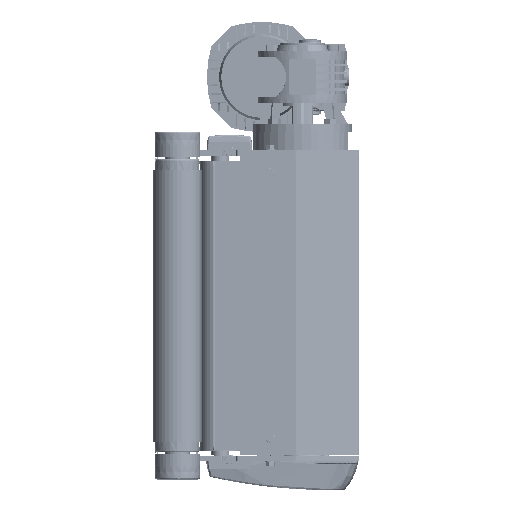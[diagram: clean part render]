
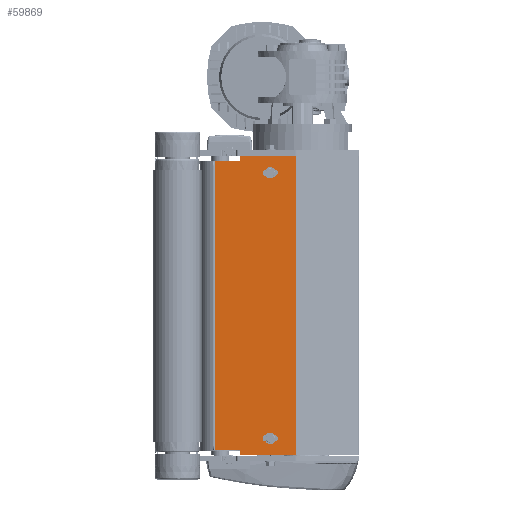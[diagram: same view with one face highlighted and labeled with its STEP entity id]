
A CAD part, left-side view. The second image highlights one B-rep face of the part: STEP entity #59869.
In plain terms, the highlighted planar face has unit normal (-1, 0, 0).
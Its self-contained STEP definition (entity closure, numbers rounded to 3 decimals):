
#2682 = LINE ( 'NONE', #59168, #98269 ) ;
#3609 = CARTESIAN_POINT ( 'NONE',  ( -90., 93., 192. ) ) ;
#4455 = VECTOR ( 'NONE', #115401, 1000. ) ;
#5945 = DIRECTION ( 'NONE',  ( 0., 0., -1. ) ) ;
#6723 = CARTESIAN_POINT ( 'NONE',  ( -90., 160., -115.5 ) ) ;
#6884 = CARTESIAN_POINT ( 'NONE',  ( -90., 160., -110.5 ) ) ;
#7875 = CARTESIAN_POINT ( 'NONE',  ( -90., 160., 199. ) ) ;
#8242 = EDGE_CURVE ( 'NONE', #170442, #152160, #160098, .T. ) ;
#8767 = VERTEX_POINT ( 'NONE', #100993 ) ;
#10577 = VERTEX_POINT ( 'NONE', #176721 ) ;
#11625 = VECTOR ( 'NONE', #21042, 1000. ) ;
#11672 = AXIS2_PLACEMENT_3D ( 'NONE', #62422, #133885, #5945 ) ;
#12023 = CIRCLE ( 'NONE', #117140, 3.5 ) ;
#14065 = EDGE_CURVE ( 'NONE', #77202, #170442, #73307, .T. ) ;
#14673 = DIRECTION ( 'NONE',  ( 1., 0., 0. ) ) ;
#15550 = ORIENTED_EDGE ( 'NONE', *, *, #154016, .T. ) ;
#16580 = ORIENTED_EDGE ( 'NONE', *, *, #19074, .F. ) ;
#16949 = VECTOR ( 'NONE', #114286, 1000. ) ;
#19074 = EDGE_CURVE ( 'NONE', #77202, #123040, #117484, .T. ) ;
#21042 = DIRECTION ( 'NONE',  ( 0., -1., 0. ) ) ;
#22619 = ORIENTED_EDGE ( 'NONE', *, *, #85500, .T. ) ;
#26043 = VERTEX_POINT ( 'NONE', #3609 ) ;
#27535 = EDGE_CURVE ( 'NONE', #26043, #74459, #105121, .T. ) ;
#27880 = DIRECTION ( 'NONE',  ( 0., 0., -1. ) ) ;
#28567 = DIRECTION ( 'NONE',  ( 0., 0., -1. ) ) ;
#31233 = CARTESIAN_POINT ( 'NONE',  ( -90., 160., 208.5 ) ) ;
#31759 = EDGE_CURVE ( 'NONE', #100009, #10577, #164982, .T. ) ;
#31790 = DIRECTION ( 'NONE',  ( 1., 0., 0. ) ) ;
#34075 = VECTOR ( 'NONE', #69906, 1000. ) ;
#37329 = VERTEX_POINT ( 'NONE', #50032 ) ;
#37394 = VECTOR ( 'NONE', #123350, 1000. ) ;
#39111 = ORIENTED_EDGE ( 'NONE', *, *, #50949, .T. ) ;
#39804 = EDGE_CURVE ( 'NONE', #74459, #100009, #12023, .T. ) ;
#40649 = CARTESIAN_POINT ( 'NONE',  ( -90., 70.086, -115.5 ) ) ;
#41565 = DIRECTION ( 'NONE',  ( 0., 1., 0. ) ) ;
#42137 = DIRECTION ( 'NONE',  ( 0., 0., -1. ) ) ;
#46659 = VERTEX_POINT ( 'NONE', #40649 ) ;
#47227 = VERTEX_POINT ( 'NONE', #139897 ) ;
#48306 = FACE_BOUND ( 'NONE', #68146, .T. ) ;
#49314 = CARTESIAN_POINT ( 'NONE',  ( -90., 131.5, 213.5 ) ) ;
#50032 = CARTESIAN_POINT ( 'NONE',  ( -90., 131.5, -115.5 ) ) ;
#50949 = EDGE_CURVE ( 'NONE', #109993, #8767, #106890, .T. ) ;
#53041 = ORIENTED_EDGE ( 'NONE', *, *, #117351, .T. ) ;
#54175 = ORIENTED_EDGE ( 'NONE', *, *, #56469, .T. ) ;
#56469 = EDGE_CURVE ( 'NONE', #8767, #129750, #167652, .T. ) ;
#58045 = LINE ( 'NONE', #70331, #4455 ) ;
#59167 = VERTEX_POINT ( 'NONE', #169972 ) ;
#59168 = CARTESIAN_POINT ( 'NONE',  ( -90., 158.5, 213.5 ) ) ;
#59869 = ADVANCED_FACE ( 'NONE', ( #48306, #135734, #64269 ), #102853, .F. ) ;
#60493 = ORIENTED_EDGE ( 'NONE', *, *, #8242, .T. ) ;
#61566 = CARTESIAN_POINT ( 'NONE',  ( -90., 131.5, 208.5 ) ) ;
#62422 = CARTESIAN_POINT ( 'NONE',  ( -90., 160., 213.5 ) ) ;
#64269 = FACE_OUTER_BOUND ( 'NONE', #150584, .T. ) ;
#68146 = EDGE_LOOP ( 'NONE', ( #53041, #39111, #54175, #22619 ) ) ;
#69841 = VECTOR ( 'NONE', #88603, 1000. ) ;
#69906 = DIRECTION ( 'NONE',  ( 0., 0., -1. ) ) ;
#69911 = CIRCLE ( 'NONE', #172054, 3.5 ) ;
#70331 = CARTESIAN_POINT ( 'NONE',  ( -90., 160., -94. ) ) ;
#71586 = ORIENTED_EDGE ( 'NONE', *, *, #153650, .T. ) ;
#72067 = CARTESIAN_POINT ( 'NONE',  ( -90., 93., -97.5 ) ) ;
#73304 = CARTESIAN_POINT ( 'NONE',  ( -90., 160., 213.5 ) ) ;
#73307 = LINE ( 'NONE', #88356, #110553 ) ;
#74459 = VERTEX_POINT ( 'NONE', #158630 ) ;
#76505 = LINE ( 'NONE', #6884, #164352 ) ;
#76874 = CARTESIAN_POINT ( 'NONE',  ( -90., 160., 192. ) ) ;
#76952 = DIRECTION ( 'NONE',  ( 0., 0., -1. ) ) ;
#77202 = VERTEX_POINT ( 'NONE', #49314 ) ;
#78739 = CARTESIAN_POINT ( 'NONE',  ( -90., 93., 195.5 ) ) ;
#79111 = EDGE_CURVE ( 'NONE', #10577, #26043, #69911, .T. ) ;
#81210 = LINE ( 'NONE', #110363, #34075 ) ;
#81625 = EDGE_CURVE ( 'NONE', #37329, #46659, #138370, .T. ) ;
#85500 = EDGE_CURVE ( 'NONE', #129750, #59167, #90486, .T. ) ;
#88356 = CARTESIAN_POINT ( 'NONE',  ( -90., 131.5, 213.5 ) ) ;
#88603 = DIRECTION ( 'NONE',  ( 0., 1., 0. ) ) ;
#90223 = DIRECTION ( 'NONE',  ( 0., -1., 0. ) ) ;
#90486 = CIRCLE ( 'NONE', #162598, 3.5 ) ;
#96928 = EDGE_CURVE ( 'NONE', #153105, #37329, #125648, .T. ) ;
#98269 = VECTOR ( 'NONE', #76952, 1000. ) ;
#99712 = ORIENTED_EDGE ( 'NONE', *, *, #96928, .T. ) ;
#100009 = VERTEX_POINT ( 'NONE', #180245 ) ;
#100993 = CARTESIAN_POINT ( 'NONE',  ( -90., 93., -101. ) ) ;
#102853 = PLANE ( 'NONE',  #11672 ) ;
#104054 = EDGE_CURVE ( 'NONE', #123040, #46659, #81210, .T. ) ;
#105121 = LINE ( 'NONE', #76874, #171407 ) ;
#106890 = CIRCLE ( 'NONE', #121791, 3.5 ) ;
#108815 = DIRECTION ( 'NONE',  ( 0., 0., -1. ) ) ;
#109993 = VERTEX_POINT ( 'NONE', #179386 ) ;
#110363 = CARTESIAN_POINT ( 'NONE',  ( -90., 70.086, 213.5 ) ) ;
#110553 = VECTOR ( 'NONE', #145735, 1000. ) ;
#110591 = CARTESIAN_POINT ( 'NONE',  ( -90., 131.5, 213.5 ) ) ;
#111624 = ORIENTED_EDGE ( 'NONE', *, *, #39804, .T. ) ;
#113054 = CARTESIAN_POINT ( 'NONE',  ( -90., 131.5, -110.5 ) ) ;
#114286 = DIRECTION ( 'NONE',  ( 0., 0., -1. ) ) ;
#115401 = DIRECTION ( 'NONE',  ( 0., -1., 0. ) ) ;
#117140 = AXIS2_PLACEMENT_3D ( 'NONE', #131062, #173382, #28567 ) ;
#117351 = EDGE_CURVE ( 'NONE', #59167, #109993, #58045, .T. ) ;
#117484 = LINE ( 'NONE', #73304, #133090 ) ;
#121791 = AXIS2_PLACEMENT_3D ( 'NONE', #72067, #14673, #27880 ) ;
#122314 = ORIENTED_EDGE ( 'NONE', *, *, #79111, .T. ) ;
#123040 = VERTEX_POINT ( 'NONE', #184939 ) ;
#123350 = DIRECTION ( 'NONE',  ( 0., -1., 0. ) ) ;
#125648 = LINE ( 'NONE', #110591, #16949 ) ;
#126270 = CARTESIAN_POINT ( 'NONE',  ( -90., 160., -101. ) ) ;
#129064 = ORIENTED_EDGE ( 'NONE', *, *, #81625, .T. ) ;
#129750 = VERTEX_POINT ( 'NONE', #154099 ) ;
#130698 = EDGE_LOOP ( 'NONE', ( #157040, #122314, #176996, #111624 ) ) ;
#131062 = CARTESIAN_POINT ( 'NONE',  ( -90., 103., 195.5 ) ) ;
#133090 = VECTOR ( 'NONE', #90223, 1000. ) ;
#133885 = DIRECTION ( 'NONE',  ( 1., 0., 0. ) ) ;
#133900 = DIRECTION ( 'NONE',  ( 0., -1., 0. ) ) ;
#135734 = FACE_BOUND ( 'NONE', #130698, .T. ) ;
#138370 = LINE ( 'NONE', #6723, #37394 ) ;
#139508 = ORIENTED_EDGE ( 'NONE', *, *, #104054, .F. ) ;
#139897 = CARTESIAN_POINT ( 'NONE',  ( -90., 158.5, -110.5 ) ) ;
#145735 = DIRECTION ( 'NONE',  ( 0., 0., -1. ) ) ;
#150584 = EDGE_LOOP ( 'NONE', ( #171861, #60493, #71586, #15550, #99712, #129064, #139508, #16580 ) ) ;
#152160 = VERTEX_POINT ( 'NONE', #154902 ) ;
#153105 = VERTEX_POINT ( 'NONE', #113054 ) ;
#153650 = EDGE_CURVE ( 'NONE', #152160, #47227, #2682, .T. ) ;
#154016 = EDGE_CURVE ( 'NONE', #47227, #153105, #76505, .T. ) ;
#154099 = CARTESIAN_POINT ( 'NONE',  ( -90., 103., -101. ) ) ;
#154902 = CARTESIAN_POINT ( 'NONE',  ( -90., 158.5, 208.5 ) ) ;
#157040 = ORIENTED_EDGE ( 'NONE', *, *, #31759, .T. ) ;
#158630 = CARTESIAN_POINT ( 'NONE',  ( -90., 103., 192. ) ) ;
#160098 = LINE ( 'NONE', #31233, #69841 ) ;
#162502 = DIRECTION ( 'NONE',  ( 0., 1., 0. ) ) ;
#162598 = AXIS2_PLACEMENT_3D ( 'NONE', #186029, #169175, #42137 ) ;
#164352 = VECTOR ( 'NONE', #133900, 1000. ) ;
#164982 = LINE ( 'NONE', #7875, #11625 ) ;
#167652 = LINE ( 'NONE', #126270, #176588 ) ;
#169175 = DIRECTION ( 'NONE',  ( 1., 0., 0. ) ) ;
#169972 = CARTESIAN_POINT ( 'NONE',  ( -90., 103., -94. ) ) ;
#170442 = VERTEX_POINT ( 'NONE', #61566 ) ;
#171407 = VECTOR ( 'NONE', #162502, 1000. ) ;
#171861 = ORIENTED_EDGE ( 'NONE', *, *, #14065, .T. ) ;
#172054 = AXIS2_PLACEMENT_3D ( 'NONE', #78739, #31790, #108815 ) ;
#173382 = DIRECTION ( 'NONE',  ( 1., 0., 0. ) ) ;
#176588 = VECTOR ( 'NONE', #41565, 1000. ) ;
#176721 = CARTESIAN_POINT ( 'NONE',  ( -90., 93., 199. ) ) ;
#176996 = ORIENTED_EDGE ( 'NONE', *, *, #27535, .T. ) ;
#179386 = CARTESIAN_POINT ( 'NONE',  ( -90., 93., -94. ) ) ;
#180245 = CARTESIAN_POINT ( 'NONE',  ( -90., 103., 199. ) ) ;
#184939 = CARTESIAN_POINT ( 'NONE',  ( -90., 70.086, 213.5 ) ) ;
#186029 = CARTESIAN_POINT ( 'NONE',  ( -90., 103., -97.5 ) ) ;
